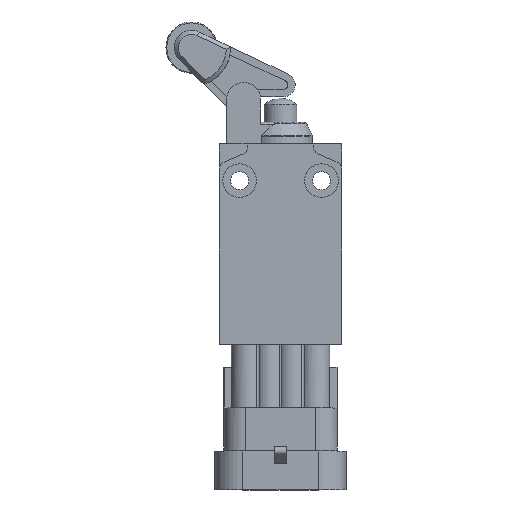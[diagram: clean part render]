
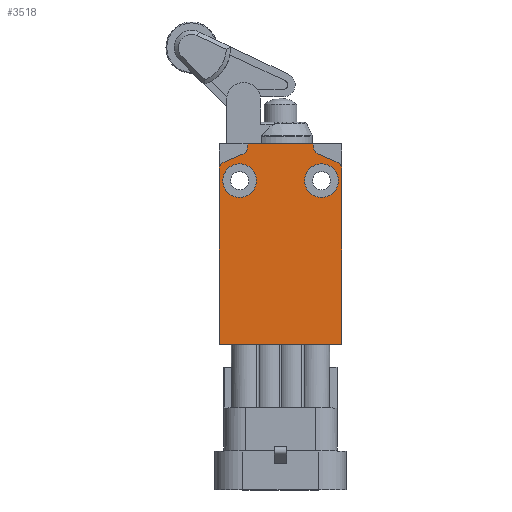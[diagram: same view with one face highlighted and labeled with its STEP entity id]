
A CAD part, top view. The second image highlights one B-rep face of the part: STEP entity #3518.
In plain terms, the highlighted planar face has unit normal (0, 0, 1) as drawn and (0, -1, 0) by its records, which use the part's own axes.
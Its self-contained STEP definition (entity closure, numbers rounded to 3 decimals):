
#49=LINE('',#5111,#381);
#58=LINE('',#5152,#390);
#84=LINE('',#5238,#416);
#85=LINE('',#5242,#417);
#86=LINE('',#5244,#418);
#87=LINE('',#5246,#419);
#88=LINE('',#5250,#420);
#89=LINE('',#5253,#421);
#381=VECTOR('',#4084,30.);
#390=VECTOR('',#4119,42.681);
#416=VECTOR('',#4211,4.978);
#417=VECTOR('',#4214,0.681);
#418=VECTOR('',#4215,16.);
#419=VECTOR('',#4216,0.681);
#420=VECTOR('',#4219,4.978);
#421=VECTOR('',#4222,42.681);
#725=PLANE('',#3758);
#847=FACE_BOUND('',#1101,.T.);
#848=FACE_BOUND('',#1102,.T.);
#893=FACE_OUTER_BOUND('',#1100,.T.);
#1100=EDGE_LOOP('',(#2360,#2361,#2362,#2363,#2364,#2365,#2366,#2367,#2368,
#2369,#2370,#2371));
#1101=EDGE_LOOP('',(#2372));
#1102=EDGE_LOOP('',(#2373));
#1294=CIRCLE('',#3701,4.1);
#1300=CIRCLE('',#3710,4.1);
#1326=CIRCLE('',#3756,2.);
#1328=CIRCLE('',#3759,2.);
#1329=CIRCLE('',#3760,2.);
#1330=CIRCLE('',#3761,2.);
#1439=VERTEX_POINT('',#5087);
#1445=VERTEX_POINT('',#5102);
#1448=VERTEX_POINT('',#5108);
#1449=VERTEX_POINT('',#5110);
#1468=VERTEX_POINT('',#5150);
#1493=VERTEX_POINT('',#5231);
#1495=VERTEX_POINT('',#5237);
#1496=VERTEX_POINT('',#5239);
#1497=VERTEX_POINT('',#5241);
#1498=VERTEX_POINT('',#5243);
#1499=VERTEX_POINT('',#5245);
#1500=VERTEX_POINT('',#5247);
#1501=VERTEX_POINT('',#5249);
#1502=VERTEX_POINT('',#5251);
#1769=EDGE_CURVE('',#1439,#1439,#1294,.T.);
#1775=EDGE_CURVE('',#1445,#1445,#1300,.T.);
#1778=EDGE_CURVE('',#1448,#1449,#49,.T.);
#1799=EDGE_CURVE('',#1468,#1448,#58,.T.);
#1836=EDGE_CURVE('',#1493,#1468,#1326,.T.);
#1839=EDGE_CURVE('',#1493,#1495,#84,.T.);
#1840=EDGE_CURVE('',#1496,#1495,#1328,.T.);
#1841=EDGE_CURVE('',#1496,#1497,#85,.T.);
#1842=EDGE_CURVE('',#1498,#1497,#86,.T.);
#1843=EDGE_CURVE('',#1498,#1499,#87,.T.);
#1844=EDGE_CURVE('',#1500,#1499,#1329,.T.);
#1845=EDGE_CURVE('',#1500,#1501,#88,.T.);
#1846=EDGE_CURVE('',#1502,#1501,#1330,.T.);
#1847=EDGE_CURVE('',#1449,#1502,#89,.T.);
#2360=ORIENTED_EDGE('',*,*,#1836,.F.);
#2361=ORIENTED_EDGE('',*,*,#1839,.T.);
#2362=ORIENTED_EDGE('',*,*,#1840,.F.);
#2363=ORIENTED_EDGE('',*,*,#1841,.T.);
#2364=ORIENTED_EDGE('',*,*,#1842,.F.);
#2365=ORIENTED_EDGE('',*,*,#1843,.T.);
#2366=ORIENTED_EDGE('',*,*,#1844,.F.);
#2367=ORIENTED_EDGE('',*,*,#1845,.T.);
#2368=ORIENTED_EDGE('',*,*,#1846,.F.);
#2369=ORIENTED_EDGE('',*,*,#1847,.F.);
#2370=ORIENTED_EDGE('',*,*,#1778,.F.);
#2371=ORIENTED_EDGE('',*,*,#1799,.F.);
#2372=ORIENTED_EDGE('',*,*,#1775,.T.);
#2373=ORIENTED_EDGE('',*,*,#1769,.T.);
#3518=ADVANCED_FACE('',(#893,#847,#848),#725,.T.);
#3701=AXIS2_PLACEMENT_3D('',#5088,#4059,#4060);
#3710=AXIS2_PLACEMENT_3D('',#5103,#4077,#4078);
#3756=AXIS2_PLACEMENT_3D('',#5232,#4204,#4205);
#3758=AXIS2_PLACEMENT_3D('',#5236,#4209,#4210);
#3759=AXIS2_PLACEMENT_3D('',#5240,#4212,#4213);
#3760=AXIS2_PLACEMENT_3D('',#5248,#4217,#4218);
#3761=AXIS2_PLACEMENT_3D('',#5252,#4220,#4221);
#4059=DIRECTION('center_axis',(0.,1.,0.));
#4060=DIRECTION('ref_axis',(1.,0.,0.));
#4077=DIRECTION('center_axis',(0.,1.,0.));
#4078=DIRECTION('ref_axis',(-1.,0.,0.));
#4084=DIRECTION('',(-1.,0.,0.));
#4119=DIRECTION('',(0.,0.,-1.));
#4204=DIRECTION('center_axis',(0.,1.,0.));
#4205=DIRECTION('ref_axis',(0.835,0.,0.55));
#4209=DIRECTION('center_axis',(0.,-1.,0.));
#4210=DIRECTION('ref_axis',(1.,0.,0.));
#4211=DIRECTION('',(-0.919,0.,0.394));
#4212=DIRECTION('center_axis',(0.,-1.,0.));
#4213=DIRECTION('ref_axis',(-0.835,0.,-0.55));
#4214=DIRECTION('',(0.,0.,1.));
#4215=DIRECTION('',(1.,0.,0.));
#4216=DIRECTION('',(0.,0.,-1.));
#4217=DIRECTION('center_axis',(0.,-1.,0.));
#4218=DIRECTION('ref_axis',(0.835,0.,-0.55));
#4219=DIRECTION('',(-0.919,0.,-0.394));
#4220=DIRECTION('center_axis',(0.,1.,0.));
#4221=DIRECTION('ref_axis',(-0.835,0.,0.55));
#4222=DIRECTION('',(0.,0.,1.));
#5087=CARTESIAN_POINT('',(-14.1,-16.,0.9));
#5088=CARTESIAN_POINT('Origin',(-10.,-16.,0.9));
#5102=CARTESIAN_POINT('',(14.1,-16.,0.9));
#5103=CARTESIAN_POINT('Origin',(10.,-16.,0.9));
#5108=CARTESIAN_POINT('',(15.,-16.,-39.1));
#5110=CARTESIAN_POINT('',(-15.,-16.,-39.1));
#5111=CARTESIAN_POINT('',(15.,-16.,-39.1));
#5150=CARTESIAN_POINT('',(15.,-16.,3.581));
#5152=CARTESIAN_POINT('',(15.,-16.,3.581));
#5231=CARTESIAN_POINT('',(13.788,-16.,5.419));
#5232=CARTESIAN_POINT('Origin',(13.,-16.,3.581));
#5236=CARTESIAN_POINT('Origin',(0.,-16.,-14.6));
#5237=CARTESIAN_POINT('',(9.212,-16.,7.381));
#5238=CARTESIAN_POINT('',(13.788,-16.,5.419));
#5239=CARTESIAN_POINT('',(8.,-16.,9.219));
#5240=CARTESIAN_POINT('Origin',(10.,-16.,9.219));
#5241=CARTESIAN_POINT('',(8.,-16.,9.9));
#5242=CARTESIAN_POINT('',(8.,-16.,9.219));
#5243=CARTESIAN_POINT('',(-8.,-16.,9.9));
#5244=CARTESIAN_POINT('',(-8.,-16.,9.9));
#5245=CARTESIAN_POINT('',(-8.,-16.,9.219));
#5246=CARTESIAN_POINT('',(-8.,-16.,9.9));
#5247=CARTESIAN_POINT('',(-9.212,-16.,7.381));
#5248=CARTESIAN_POINT('Origin',(-10.,-16.,9.219));
#5249=CARTESIAN_POINT('',(-13.788,-16.,5.419));
#5250=CARTESIAN_POINT('',(-9.212,-16.,7.381));
#5251=CARTESIAN_POINT('',(-15.,-16.,3.581));
#5252=CARTESIAN_POINT('Origin',(-13.,-16.,3.581));
#5253=CARTESIAN_POINT('',(-15.,-16.,-39.1));
